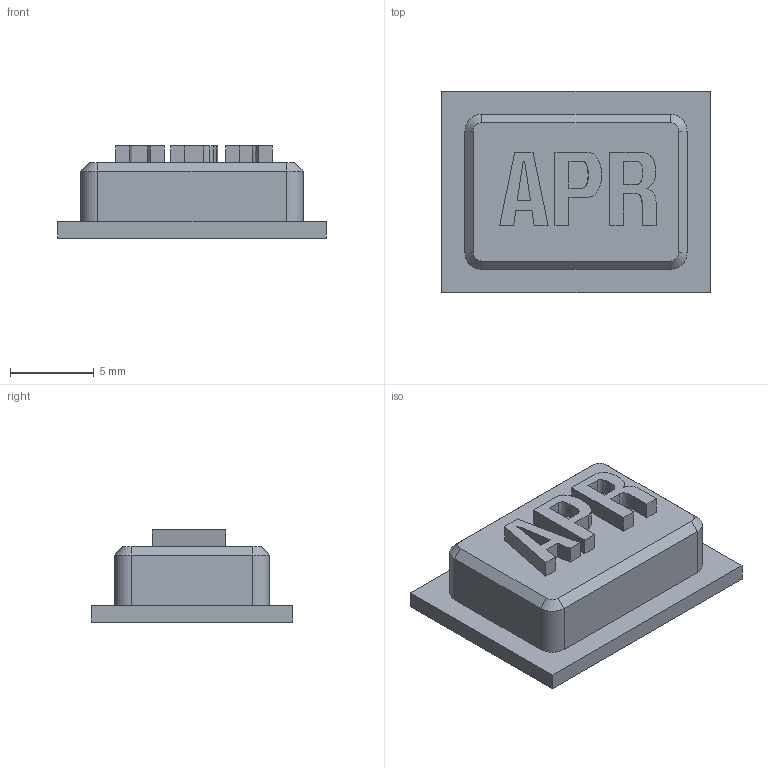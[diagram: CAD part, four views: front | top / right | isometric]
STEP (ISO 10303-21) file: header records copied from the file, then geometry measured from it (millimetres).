
FILE_DESCRIPTION(('FreeCAD Model'),'2;1');
FILE_NAME('E:/CAD Designs/Garmin/Final/CAD files/STEP/APR.step', '2021-02-27T12:55:21',('Author'),(''), 'Open CASCADE STEP processor 7.3','FreeCAD','Unknown');
FILE_SCHEMA(('AUTOMOTIVE_DESIGN { 1 0 10303 214 1 1 1 1 }'));
Length unit declared in the file: millimetre
Products named in the file (2): Body; Extrude
Bounding box: 16 x 12 x 5.5 mm (x, y, z)
Volume: 634.1 mm3; surface area: 682.6 mm2
Topology: 4 solids, 4 shells, 83 faces, 214 edges, 140 vertices
Faces by surface type: plane 52, extrusion 23, cylinder 4, cone 4
Entity records: 5372 total; most frequent: CARTESIAN_POINT 1102, DIRECTION 706, VECTOR 553, LINE 530, ORIENTED_EDGE 428, PCURVE 428, DEFINITIONAL_REPRESENTATION 428, EDGE_CURVE 214
